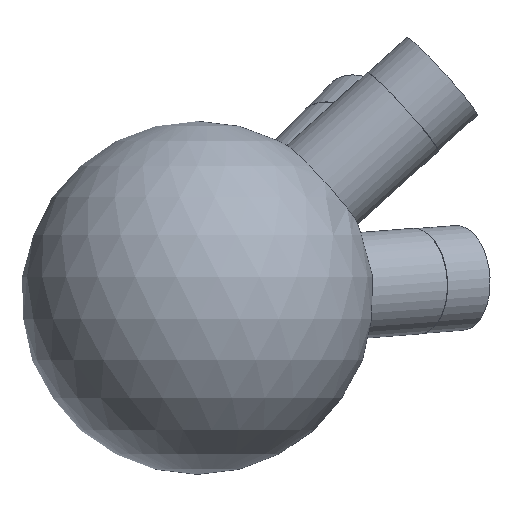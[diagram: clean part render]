
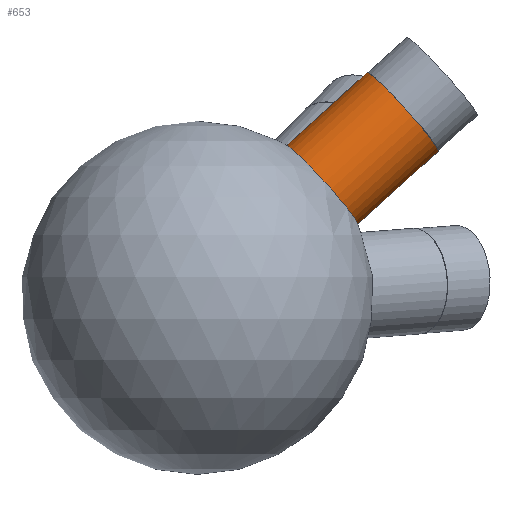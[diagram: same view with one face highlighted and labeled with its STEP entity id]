
A CAD part, left-side view. The second image highlights one B-rep face of the part: STEP entity #653.
In plain terms, the highlighted cylindrical face has radius 6 mm (diameter 12 mm), a full revolution.
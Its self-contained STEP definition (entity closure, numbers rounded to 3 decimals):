
#37 = SPHERICAL_SURFACE('',#38,20.);
#38 = AXIS2_PLACEMENT_3D('',#39,#40,#41);
#39 = CARTESIAN_POINT('',(0.,0.,0.));
#40 = DIRECTION('',(0.,0.,1.));
#41 = DIRECTION('',(1.,0.,-0.));
#372 = EDGE_CURVE('',#373,#373,#375,.T.);
#373 = VERTEX_POINT('',#374);
#374 = CARTESIAN_POINT('',(1.565,-18.124,8.31)
  );
#375 = SURFACE_CURVE('',#376,(#381,#457),.PCURVE_S1.);
#376 = CIRCLE('',#377,6.);
#377 = AXIS2_PLACEMENT_3D('',#378,#379,#380);
#378 = CARTESIAN_POINT('',(1.565,-14.098,12.759)
  );
#379 = DIRECTION('',(0.082,-0.739,0.669)
  );
#380 = DIRECTION('',(0.,-0.671,-0.741)
  );
#381 = PCURVE('',#37,#382);
#382 = DEFINITIONAL_REPRESENTATION('',(#383),#456);
#383 = B_SPLINE_CURVE_WITH_KNOTS('',8,(#384,#385,#386,#387,#388,#389,
    #390,#391,#392,#393,#394,#395,#396,#397,#398,#399,#400,#401,#402,
    #403,#404,#405,#406,#407,#408,#409,#410,#411,#412,#413,#414,#415,
    #416,#417,#418,#419,#420,#421,#422,#423,#424,#425,#426,#427,#428,
    #429,#430,#431,#432,#433,#434,#435,#436,#437,#438,#439,#440,#441,
    #442,#443,#444,#445,#446,#447,#448,#449,#450,#451,#452,#453,#454,
    #455),.UNSPECIFIED.,.T.,.F.,(9,7,7,7,7,7,7,7,7,7,9),(0.,
    0.785,1.473,2.074,2.6,
    3.06,3.463,4.168,4.697,
    5.49,6.283),.UNSPECIFIED.);
#384 = CARTESIAN_POINT('',(4.799,0.429));
#385 = CARTESIAN_POINT('',(4.831,0.427));
#386 = CARTESIAN_POINT('',(4.863,0.428));
#387 = CARTESIAN_POINT('',(4.896,0.431));
#388 = CARTESIAN_POINT('',(4.928,0.438));
#389 = CARTESIAN_POINT('',(4.959,0.447));
#390 = CARTESIAN_POINT('',(4.989,0.458));
#391 = CARTESIAN_POINT('',(5.019,0.472));
#392 = CARTESIAN_POINT('',(5.071,0.502));
#393 = CARTESIAN_POINT('',(5.094,0.518));
#394 = CARTESIAN_POINT('',(5.116,0.536));
#395 = CARTESIAN_POINT('',(5.137,0.555));
#396 = CARTESIAN_POINT('',(5.156,0.575));
#397 = CARTESIAN_POINT('',(5.173,0.597));
#398 = CARTESIAN_POINT('',(5.188,0.62));
#399 = CARTESIAN_POINT('',(5.213,0.664));
#400 = CARTESIAN_POINT('',(5.222,0.685));
#401 = CARTESIAN_POINT('',(5.23,0.707));
#402 = CARTESIAN_POINT('',(5.236,0.729));
#403 = CARTESIAN_POINT('',(5.239,0.752));
#404 = CARTESIAN_POINT('',(5.24,0.774));
#405 = CARTESIAN_POINT('',(5.239,0.797));
#406 = CARTESIAN_POINT('',(5.23,0.839));
#407 = CARTESIAN_POINT('',(5.224,0.858));
#408 = CARTESIAN_POINT('',(5.215,0.877));
#409 = CARTESIAN_POINT('',(5.204,0.896));
#410 = CARTESIAN_POINT('',(5.19,0.914));
#411 = CARTESIAN_POINT('',(5.173,0.931));
#412 = CARTESIAN_POINT('',(5.153,0.947));
#413 = CARTESIAN_POINT('',(5.111,0.974));
#414 = CARTESIAN_POINT('',(5.088,0.986));
#415 = CARTESIAN_POINT('',(5.064,0.997));
#416 = CARTESIAN_POINT('',(5.037,1.007));
#417 = CARTESIAN_POINT('',(5.009,1.016));
#418 = CARTESIAN_POINT('',(4.978,1.023));
#419 = CARTESIAN_POINT('',(4.946,1.028));
#420 = CARTESIAN_POINT('',(4.885,1.035));
#421 = CARTESIAN_POINT('',(4.855,1.038));
#422 = CARTESIAN_POINT('',(4.826,1.038));
#423 = CARTESIAN_POINT('',(4.796,1.038));
#424 = CARTESIAN_POINT('',(4.766,1.036));
#425 = CARTESIAN_POINT('',(4.737,1.033));
#426 = CARTESIAN_POINT('',(4.708,1.029));
#427 = CARTESIAN_POINT('',(4.633,1.015));
#428 = CARTESIAN_POINT('',(4.589,1.002));
#429 = CARTESIAN_POINT('',(4.55,0.986));
#430 = CARTESIAN_POINT('',(4.515,0.967));
#431 = CARTESIAN_POINT('',(4.487,0.946));
#432 = CARTESIAN_POINT('',(4.464,0.924));
#433 = CARTESIAN_POINT('',(4.445,0.899));
#434 = CARTESIAN_POINT('',(4.422,0.856));
#435 = CARTESIAN_POINT('',(4.414,0.837));
#436 = CARTESIAN_POINT('',(4.409,0.817));
#437 = CARTESIAN_POINT('',(4.406,0.797));
#438 = CARTESIAN_POINT('',(4.406,0.777));
#439 = CARTESIAN_POINT('',(4.407,0.757));
#440 = CARTESIAN_POINT('',(4.41,0.738));
#441 = CARTESIAN_POINT('',(4.422,0.689));
#442 = CARTESIAN_POINT('',(4.433,0.66));
#443 = CARTESIAN_POINT('',(4.447,0.632));
#444 = CARTESIAN_POINT('',(4.465,0.606));
#445 = CARTESIAN_POINT('',(4.485,0.581));
#446 = CARTESIAN_POINT('',(4.507,0.557));
#447 = CARTESIAN_POINT('',(4.531,0.536));
#448 = CARTESIAN_POINT('',(4.583,0.497));
#449 = CARTESIAN_POINT('',(4.61,0.48));
#450 = CARTESIAN_POINT('',(4.64,0.465));
#451 = CARTESIAN_POINT('',(4.67,0.452));
#452 = CARTESIAN_POINT('',(4.701,0.442));
#453 = CARTESIAN_POINT('',(4.733,0.435));
#454 = CARTESIAN_POINT('',(4.766,0.43));
#455 = CARTESIAN_POINT('',(4.799,0.429));
#456 = ( GEOMETRIC_REPRESENTATION_CONTEXT(2) 
PARAMETRIC_REPRESENTATION_CONTEXT() REPRESENTATION_CONTEXT('2D SPACE',''
  ) );
#457 = PCURVE('',#458,#463);
#458 = CYLINDRICAL_SURFACE('',#459,6.);
#459 = AXIS2_PLACEMENT_3D('',#460,#461,#462);
#460 = CARTESIAN_POINT('',(0.,0.,0.));
#461 = DIRECTION('',(0.082,-0.739,0.669)
  );
#462 = DIRECTION('',(0.,-0.671,-0.741)
  );
#463 = DEFINITIONAL_REPRESENTATION('',(#464),#468);
#464 = LINE('',#465,#466);
#465 = CARTESIAN_POINT('',(0.,19.079));
#466 = VECTOR('',#467,1.);
#467 = DIRECTION('',(1.,0.));
#468 = ( GEOMETRIC_REPRESENTATION_CONTEXT(2) 
PARAMETRIC_REPRESENTATION_CONTEXT() REPRESENTATION_CONTEXT('2D SPACE',''
  ) );
#653 = ADVANCED_FACE('',(#654),#458,.T.);
#654 = FACE_BOUND('',#655,.T.);
#655 = EDGE_LOOP('',(#656,#679,#706,#707));
#656 = ORIENTED_EDGE('',*,*,#657,.T.);
#657 = EDGE_CURVE('',#373,#658,#660,.T.);
#658 = VERTEX_POINT('',#659);
#659 = CARTESIAN_POINT('',(2.582,-27.282,16.598)
  );
#660 = SEAM_CURVE('',#661,(#665,#672),.PCURVE_S1.);
#661 = LINE('',#662,#663);
#662 = CARTESIAN_POINT('',(0.,-4.026,
    -4.449));
#663 = VECTOR('',#664,1.);
#664 = DIRECTION('',(0.082,-0.739,0.669)
  );
#665 = PCURVE('',#458,#666);
#666 = DEFINITIONAL_REPRESENTATION('',(#667),#671);
#667 = LINE('',#668,#669);
#668 = CARTESIAN_POINT('',(6.283,-0.));
#669 = VECTOR('',#670,1.);
#670 = DIRECTION('',(0.,1.));
#671 = ( GEOMETRIC_REPRESENTATION_CONTEXT(2) 
PARAMETRIC_REPRESENTATION_CONTEXT() REPRESENTATION_CONTEXT('2D SPACE',''
  ) );
#672 = PCURVE('',#458,#673);
#673 = DEFINITIONAL_REPRESENTATION('',(#674),#678);
#674 = LINE('',#675,#676);
#675 = CARTESIAN_POINT('',(0.,-0.));
#676 = VECTOR('',#677,1.);
#677 = DIRECTION('',(0.,1.));
#678 = ( GEOMETRIC_REPRESENTATION_CONTEXT(2) 
PARAMETRIC_REPRESENTATION_CONTEXT() REPRESENTATION_CONTEXT('2D SPACE',''
  ) );
#679 = ORIENTED_EDGE('',*,*,#680,.F.);
#680 = EDGE_CURVE('',#658,#658,#681,.T.);
#681 = SURFACE_CURVE('',#682,(#687,#694),.PCURVE_S1.);
#682 = CIRCLE('',#683,6.);
#683 = AXIS2_PLACEMENT_3D('',#684,#685,#686);
#684 = CARTESIAN_POINT('',(2.582,-23.256,21.047)
  );
#685 = DIRECTION('',(0.082,-0.739,0.669)
  );
#686 = DIRECTION('',(0.,-0.671,-0.741)
  );
#687 = PCURVE('',#458,#688);
#688 = DEFINITIONAL_REPRESENTATION('',(#689),#693);
#689 = LINE('',#690,#691);
#690 = CARTESIAN_POINT('',(0.,31.472));
#691 = VECTOR('',#692,1.);
#692 = DIRECTION('',(1.,0.));
#693 = ( GEOMETRIC_REPRESENTATION_CONTEXT(2) 
PARAMETRIC_REPRESENTATION_CONTEXT() REPRESENTATION_CONTEXT('2D SPACE',''
  ) );
#694 = PCURVE('',#695,#700);
#695 = PLANE('',#696);
#696 = AXIS2_PLACEMENT_3D('',#697,#698,#699);
#697 = CARTESIAN_POINT('',(2.582,-23.256,21.047)
  );
#698 = DIRECTION('',(0.082,-0.739,0.669)
  );
#699 = DIRECTION('',(0.,-0.671,-0.741)
  );
#700 = DEFINITIONAL_REPRESENTATION('',(#701),#705);
#701 = CIRCLE('',#702,6.);
#702 = AXIS2_PLACEMENT_2D('',#703,#704);
#703 = CARTESIAN_POINT('',(0.,0.));
#704 = DIRECTION('',(1.,0.));
#705 = ( GEOMETRIC_REPRESENTATION_CONTEXT(2) 
PARAMETRIC_REPRESENTATION_CONTEXT() REPRESENTATION_CONTEXT('2D SPACE',''
  ) );
#706 = ORIENTED_EDGE('',*,*,#657,.F.);
#707 = ORIENTED_EDGE('',*,*,#372,.T.);
